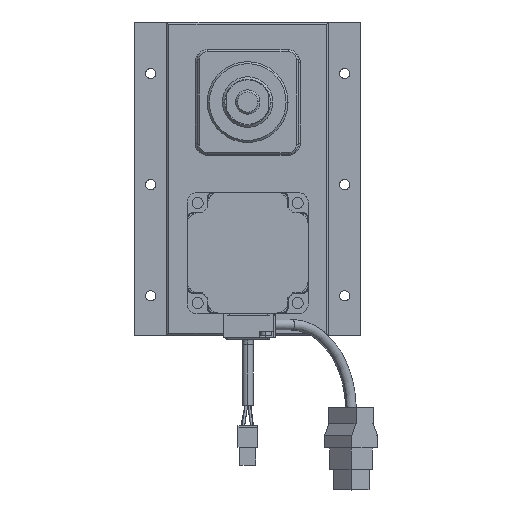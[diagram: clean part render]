
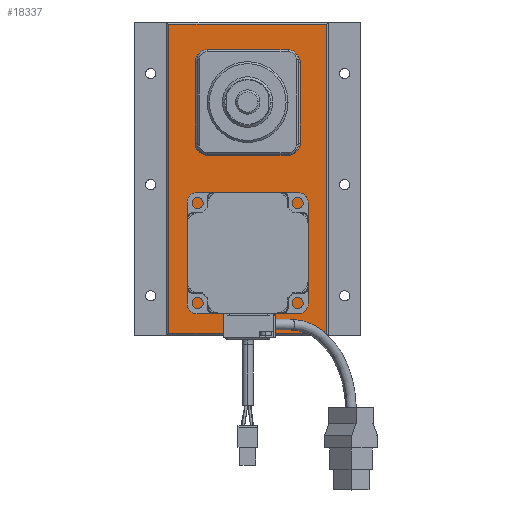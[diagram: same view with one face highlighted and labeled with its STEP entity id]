
A CAD part, top view. The second image highlights one B-rep face of the part: STEP entity #18337.
In plain terms, the highlighted planar face has unit normal (0, 0, 1).
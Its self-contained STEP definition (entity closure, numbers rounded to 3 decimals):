
#125 = VERTEX_POINT ( 'NONE', #9907 ) ;
#576 = DIRECTION ( 'NONE',  ( 0., 0., -1. ) ) ;
#702 = VECTOR ( 'NONE', #3954, 1000. ) ;
#850 = CARTESIAN_POINT ( 'NONE',  ( 20., 20., -20. ) ) ;
#1009 = DIRECTION ( 'NONE',  ( 0., 0., -1. ) ) ;
#1033 = EDGE_CURVE ( 'NONE', #18747, #6721, #20674, .T. ) ;
#1068 = CARTESIAN_POINT ( 'NONE',  ( 26., -20., -20. ) ) ;
#1088 = DIRECTION ( 'NONE',  ( 0., 1., 0. ) ) ;
#1220 = ORIENTED_EDGE ( 'NONE', *, *, #19440, .T. ) ;
#1514 = FACE_BOUND ( 'NONE', #8048, .T. ) ;
#1527 = CARTESIAN_POINT ( 'NONE',  ( -26., -20., -20. ) ) ;
#1540 = CARTESIAN_POINT ( 'NONE',  ( 39., 39., -20. ) ) ;
#1904 = CARTESIAN_POINT ( 'NONE',  ( -20., 20., -20. ) ) ;
#1958 = LINE ( 'NONE', #10924, #4200 ) ;
#2354 = DIRECTION ( 'NONE',  ( -1., 0., 0. ) ) ;
#2399 = DIRECTION ( 'NONE',  ( 0., -1., 0. ) ) ;
#2401 = EDGE_CURVE ( 'NONE', #125, #18911, #19822, .T. ) ;
#2531 = CARTESIAN_POINT ( 'NONE',  ( -20., -26., -20. ) ) ;
#2591 = CARTESIAN_POINT ( 'NONE',  ( -20., -20., -20. ) ) ;
#3083 = ORIENTED_EDGE ( 'NONE', *, *, #5460, .T. ) ;
#3141 = ORIENTED_EDGE ( 'NONE', *, *, #19351, .T. ) ;
#3192 = DIRECTION ( 'NONE',  ( 0., -1., 0. ) ) ;
#3774 = ORIENTED_EDGE ( 'NONE', *, *, #19068, .T. ) ;
#3832 = CARTESIAN_POINT ( 'NONE',  ( 0., 39., -20. ) ) ;
#3954 = DIRECTION ( 'NONE',  ( 0., 1., 0. ) ) ;
#4096 = DIRECTION ( 'NONE',  ( 0., 0., -1. ) ) ;
#4200 = VECTOR ( 'NONE', #15804, 1000. ) ;
#4494 = LINE ( 'NONE', #3832, #8080 ) ;
#4513 = VECTOR ( 'NONE', #2399, 1000. ) ;
#4550 = DIRECTION ( 'NONE',  ( 1., 0., 0. ) ) ;
#4994 = CARTESIAN_POINT ( 'NONE',  ( -26., 20., -20. ) ) ;
#5444 = AXIS2_PLACEMENT_3D ( 'NONE', #2591, #9125, #8973 ) ;
#5460 = EDGE_CURVE ( 'NONE', #9075, #8389, #6078, .T. ) ;
#5584 = CARTESIAN_POINT ( 'NONE',  ( 0., 0., -20. ) ) ;
#5628 = EDGE_CURVE ( 'NONE', #6449, #125, #18699, .T. ) ;
#5782 = ORIENTED_EDGE ( 'NONE', *, *, #1033, .T. ) ;
#6011 = EDGE_CURVE ( 'NONE', #20254, #18747, #4494, .T. ) ;
#6078 = CIRCLE ( 'NONE', #17043, 6. ) ;
#6090 = EDGE_CURVE ( 'NONE', #14414, #20578, #10857, .T. ) ;
#6249 = ORIENTED_EDGE ( 'NONE', *, *, #5628, .T. ) ;
#6307 = ORIENTED_EDGE ( 'NONE', *, *, #8450, .T. ) ;
#6449 = VERTEX_POINT ( 'NONE', #20072 ) ;
#6710 = CIRCLE ( 'NONE', #9069, 6. ) ;
#6721 = VERTEX_POINT ( 'NONE', #19582 ) ;
#7018 = EDGE_LOOP ( 'NONE', ( #16489, #6307, #3083, #13566, #14645, #6249, #7353, #14936 ) ) ;
#7074 = CARTESIAN_POINT ( 'NONE',  ( 39., -114., -20. ) ) ;
#7353 = ORIENTED_EDGE ( 'NONE', *, *, #2401, .T. ) ;
#7358 = CARTESIAN_POINT ( 'NONE',  ( 0., -74.448, -20. ) ) ;
#7585 = LINE ( 'NONE', #15467, #11355 ) ;
#8048 = EDGE_LOOP ( 'NONE', ( #20716, #3774 ) ) ;
#8080 = VECTOR ( 'NONE', #2354, 1000. ) ;
#8188 = EDGE_CURVE ( 'NONE', #9223, #6449, #6710, .T. ) ;
#8389 = VERTEX_POINT ( 'NONE', #20590 ) ;
#8450 = EDGE_CURVE ( 'NONE', #15236, #9075, #9338, .T. ) ;
#8924 = CARTESIAN_POINT ( 'NONE',  ( 10.041, -74.448, -20. ) ) ;
#8973 = DIRECTION ( 'NONE',  ( -1., 0., 0. ) ) ;
#9034 = AXIS2_PLACEMENT_3D ( 'NONE', #7358, #4096, #15479 ) ;
#9069 = AXIS2_PLACEMENT_3D ( 'NONE', #850, #1009, #13814 ) ;
#9075 = VERTEX_POINT ( 'NONE', #4994 ) ;
#9125 = DIRECTION ( 'NONE',  ( 0., 0., -1. ) ) ;
#9223 = VERTEX_POINT ( 'NONE', #20480 ) ;
#9275 = VECTOR ( 'NONE', #4550, 1000. ) ;
#9338 = LINE ( 'NONE', #20459, #10588 ) ;
#9907 = CARTESIAN_POINT ( 'NONE',  ( 26., -20., -20. ) ) ;
#9921 = AXIS2_PLACEMENT_3D ( 'NONE', #16803, #576, #11966 ) ;
#10134 = FACE_OUTER_BOUND ( 'NONE', #18836, .T. ) ;
#10588 = VECTOR ( 'NONE', #1088, 1000. ) ;
#10857 = CIRCLE ( 'NONE', #9034, 10.041 ) ;
#10924 = CARTESIAN_POINT ( 'NONE',  ( -20., -26., -20. ) ) ;
#11001 = CARTESIAN_POINT ( 'NONE',  ( 20., 26., -20. ) ) ;
#11157 = ORIENTED_EDGE ( 'NONE', *, *, #6011, .T. ) ;
#11355 = VECTOR ( 'NONE', #18693, 1000. ) ;
#11966 = DIRECTION ( 'NONE',  ( -1., 0., 0. ) ) ;
#12920 = CARTESIAN_POINT ( 'NONE',  ( -39., 0., -20. ) ) ;
#13238 = DIRECTION ( 'NONE',  ( 0., 0., -1. ) ) ;
#13303 = DIRECTION ( 'NONE',  ( -1., 0., 0. ) ) ;
#13342 = CIRCLE ( 'NONE', #5444, 6. ) ;
#13367 = VERTEX_POINT ( 'NONE', #2531 ) ;
#13566 = ORIENTED_EDGE ( 'NONE', *, *, #20638, .T. ) ;
#13647 = CIRCLE ( 'NONE', #16579, 10.041 ) ;
#13663 = PLANE ( 'NONE',  #18288 ) ;
#13814 = DIRECTION ( 'NONE',  ( -1., 0., 0. ) ) ;
#14414 = VERTEX_POINT ( 'NONE', #8924 ) ;
#14645 = ORIENTED_EDGE ( 'NONE', *, *, #8188, .T. ) ;
#14936 = ORIENTED_EDGE ( 'NONE', *, *, #19572, .T. ) ;
#15136 = CARTESIAN_POINT ( 'NONE',  ( -39., 39., -20. ) ) ;
#15187 = CARTESIAN_POINT ( 'NONE',  ( 39., 0., -20. ) ) ;
#15200 = FACE_BOUND ( 'NONE', #7018, .T. ) ;
#15236 = VERTEX_POINT ( 'NONE', #1527 ) ;
#15381 = VECTOR ( 'NONE', #3192, 1000. ) ;
#15467 = CARTESIAN_POINT ( 'NONE',  ( 0., -114., -20. ) ) ;
#15479 = DIRECTION ( 'NONE',  ( -1., 0., 0. ) ) ;
#15804 = DIRECTION ( 'NONE',  ( -1., 0., 0. ) ) ;
#16183 = CARTESIAN_POINT ( 'NONE',  ( 0., -74.448, -20. ) ) ;
#16489 = ORIENTED_EDGE ( 'NONE', *, *, #19968, .T. ) ;
#16579 = AXIS2_PLACEMENT_3D ( 'NONE', #16183, #18000, #20973 ) ;
#16624 = LINE ( 'NONE', #11001, #9275 ) ;
#16803 = CARTESIAN_POINT ( 'NONE',  ( 20., -20., -20. ) ) ;
#17043 = AXIS2_PLACEMENT_3D ( 'NONE', #1904, #13238, #13303 ) ;
#17098 = VERTEX_POINT ( 'NONE', #7074 ) ;
#17304 = DIRECTION ( 'NONE',  ( -1., 0., 0. ) ) ;
#18000 = DIRECTION ( 'NONE',  ( 0., 0., -1. ) ) ;
#18288 = AXIS2_PLACEMENT_3D ( 'NONE', #5584, #20213, #17304 ) ;
#18337 = ADVANCED_FACE ( 'NONE', ( #10134, #15200, #1514 ), #13663, .F. ) ;
#18693 = DIRECTION ( 'NONE',  ( 1., 0., 0. ) ) ;
#18699 = LINE ( 'NONE', #1068, #4513 ) ;
#18747 = VERTEX_POINT ( 'NONE', #15136 ) ;
#18836 = EDGE_LOOP ( 'NONE', ( #5782, #1220, #3141, #11157 ) ) ;
#18842 = CARTESIAN_POINT ( 'NONE',  ( 20., -26., -20. ) ) ;
#18911 = VERTEX_POINT ( 'NONE', #18842 ) ;
#19068 = EDGE_CURVE ( 'NONE', #20578, #14414, #13647, .T. ) ;
#19218 = CARTESIAN_POINT ( 'NONE',  ( -10.041, -74.448, -20. ) ) ;
#19351 = EDGE_CURVE ( 'NONE', #17098, #20254, #20955, .T. ) ;
#19440 = EDGE_CURVE ( 'NONE', #6721, #17098, #7585, .T. ) ;
#19572 = EDGE_CURVE ( 'NONE', #18911, #13367, #1958, .T. ) ;
#19582 = CARTESIAN_POINT ( 'NONE',  ( -39., -114., -20. ) ) ;
#19822 = CIRCLE ( 'NONE', #9921, 6. ) ;
#19968 = EDGE_CURVE ( 'NONE', #13367, #15236, #13342, .T. ) ;
#20072 = CARTESIAN_POINT ( 'NONE',  ( 26., 20., -20. ) ) ;
#20213 = DIRECTION ( 'NONE',  ( 0., 0., -1. ) ) ;
#20254 = VERTEX_POINT ( 'NONE', #1540 ) ;
#20459 = CARTESIAN_POINT ( 'NONE',  ( -26., 20., -20. ) ) ;
#20480 = CARTESIAN_POINT ( 'NONE',  ( 20., 26., -20. ) ) ;
#20578 = VERTEX_POINT ( 'NONE', #19218 ) ;
#20590 = CARTESIAN_POINT ( 'NONE',  ( -20., 26., -20. ) ) ;
#20638 = EDGE_CURVE ( 'NONE', #8389, #9223, #16624, .T. ) ;
#20674 = LINE ( 'NONE', #12920, #15381 ) ;
#20716 = ORIENTED_EDGE ( 'NONE', *, *, #6090, .T. ) ;
#20955 = LINE ( 'NONE', #15187, #702 ) ;
#20973 = DIRECTION ( 'NONE',  ( -1., 0., 0. ) ) ;
